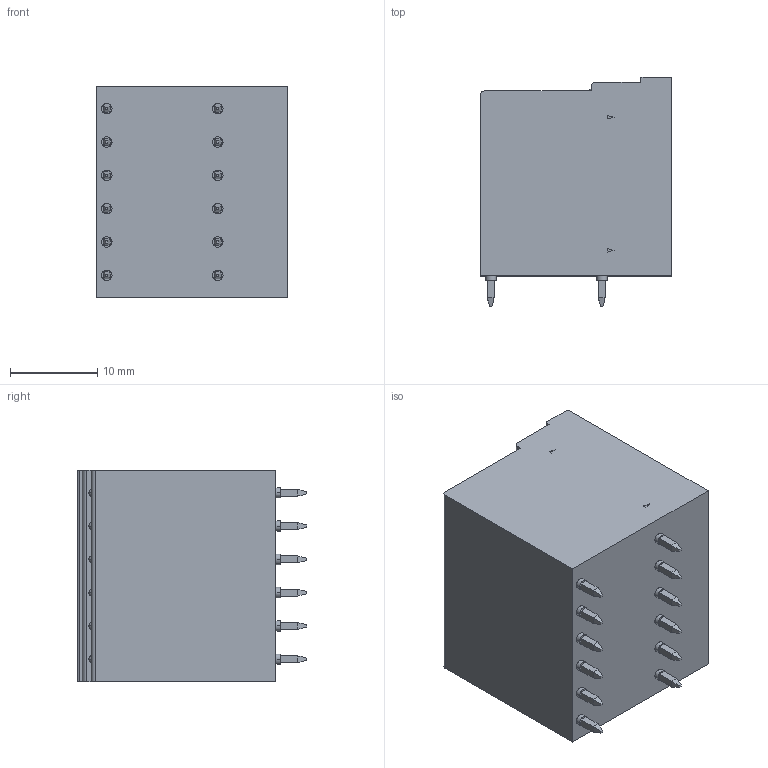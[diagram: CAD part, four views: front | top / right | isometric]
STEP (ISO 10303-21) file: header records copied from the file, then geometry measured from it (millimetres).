
FILE_DESCRIPTION (( 'STEP AP214' ), '1' );
FILE_NAME ('MCD 15.6-G1-3.81.STEP', '2025-11-22T19:34:00', ( '' ), ( '' ), 'SwSTEP 2.0', 'SolidWorks 2022', '' );
FILE_SCHEMA (( 'AUTOMOTIVE_DESIGN' ));
Length unit declared in the file: millimetre
Products named in the file (2): mcd_1.5-6-g1-3.81.stp; MCD 15.6-G1-3.81
Assembly tree (1 placements, depth 2):
  MCD 15.6-G1-3.81
    mcd_1.5-6-g1-3.81.stp
Bounding box: 21.9 x 26.2 x 24.25 mm (x, y, z)
Volume: 10217 mm3; surface area: 5287.1 mm2
Topology: 1 solids, 1 shells, 836 faces, 2055 edges, 1302 vertices
Faces by surface type: plane 671, cylinder 129, cone 24, sphere 12
Entity records: 33733 total; most frequent: CARTESIAN_POINT 4485, ORIENTED_EDGE 4110, DIRECTION 4095, EDGE_CURVE 2055, LINE 1647, VECTOR 1647, VERTEX_POINT 1302, AXIS2_PLACEMENT_3D 1224
